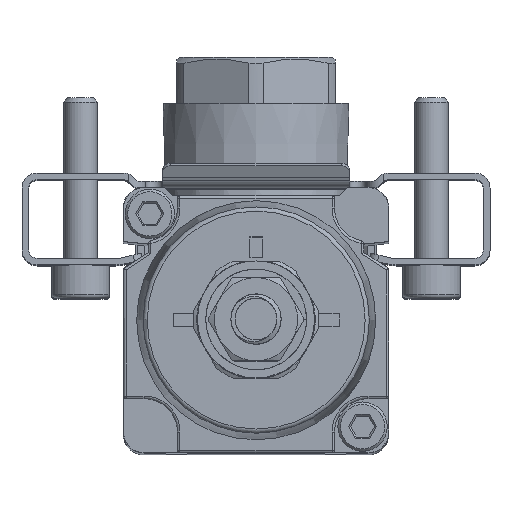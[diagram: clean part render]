
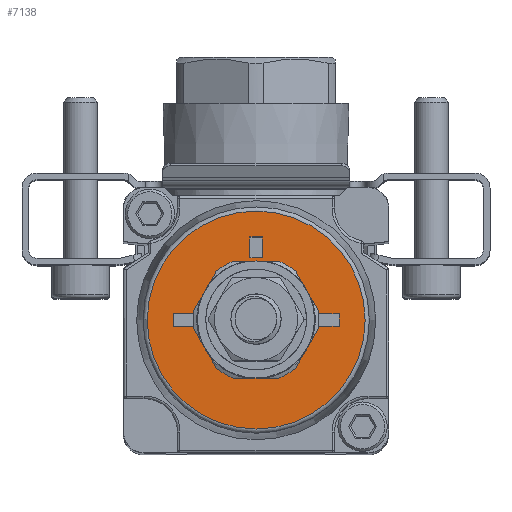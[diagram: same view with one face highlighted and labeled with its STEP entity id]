
A CAD part, top view. The second image highlights one B-rep face of the part: STEP entity #7138.
In plain terms, the highlighted planar face has unit normal (0, 0, 1).
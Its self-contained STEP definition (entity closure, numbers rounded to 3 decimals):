
#6907=CARTESIAN_POINT('',(242.574,-15.124,67.364));
#6908=VERTEX_POINT('',#6907);
#6915=CARTESIAN_POINT('',(240.078,-15.124,67.364));
#6916=VERTEX_POINT('',#6915);
#6917=CARTESIAN_POINT('',(242.574,-15.124,67.364));
#6918=DIRECTION('',(-1.,0.,0.));
#6919=VECTOR('',#6918,2.496);
#6920=LINE('',#6917,#6919);
#6921=EDGE_CURVE('',#6908,#6916,#6920,.T.);
#6939=CARTESIAN_POINT('',(240.078,-16.621,67.364));
#6940=VERTEX_POINT('',#6939);
#6941=CARTESIAN_POINT('',(240.078,-15.124,67.364));
#6942=DIRECTION('',(0.,-1.,0.));
#6943=VECTOR('',#6942,1.497);
#6944=LINE('',#6941,#6943);
#6945=EDGE_CURVE('',#6916,#6940,#6944,.T.);
#6961=CARTESIAN_POINT('',(242.574,-16.621,67.364));
#6962=VERTEX_POINT('',#6961);
#6971=CARTESIAN_POINT('',(240.078,-16.621,67.364));
#6972=DIRECTION('',(1.,0.,0.));
#6973=VECTOR('',#6972,2.496);
#6974=LINE('',#6971,#6973);
#6975=EDGE_CURVE('',#6940,#6962,#6974,.T.);
#6994=CARTESIAN_POINT('',(242.574,-16.621,67.364));
#6995=DIRECTION('',(0.,1.,0.));
#6996=VECTOR('',#6995,1.497);
#6997=LINE('',#6994,#6996);
#6998=EDGE_CURVE('',#6962,#6908,#6997,.T.);
#7018=CARTESIAN_POINT('',(250.023,-15.873,67.364));
#7019=DIRECTION('',(-1.,0.,0.));
#7020=DIRECTION('',(0.,0.,1.));
#7021=AXIS2_PLACEMENT_3D('',#7018,#7020,#7019);
#7022=PLANE('',#7021);
#7023=CARTESIAN_POINT('',(236.986,-15.873,67.364));
#7024=VERTEX_POINT('',#7023);
#7025=CARTESIAN_POINT('',(236.986,-15.798,67.364));
#7026=VERTEX_POINT('',#7025);
#7027=CARTESIAN_POINT('',(250.023,-15.873,67.364));
#7028=DIRECTION('',(-1.,0.,0.));
#7029=DIRECTION('',(0.,0.,1.));
#7030=AXIS2_PLACEMENT_3D('',#7027,#7029,#7028);
#7031=CIRCLE('',#7030,13.037);
#7032=EDGE_CURVE('',#7024,#7026,#7031,.T.);
#7033=ORIENTED_EDGE('E391',*,*,#7032,.T.);
#7034=CARTESIAN_POINT('',(250.023,-15.873,67.364));
#7035=DIRECTION('',(-1.,0.006,0.));
#7036=DIRECTION('',(0.,0.,1.));
#7037=AXIS2_PLACEMENT_3D('',#7034,#7036,#7035);
#7038=CIRCLE('',#7037,13.037);
#7039=TRIMMED_CURVE('',#7038,(PARAMETER_VALUE(0.)),(PARAMETER_VALUE(0.006)),.T.,.PARAMETER.);
#7040=EDGE_CURVE('',#7026,#7024,#7039,.T.);
#7041=ORIENTED_EDGE('E392',*,*,#7040,.T.);
#7042=EDGE_LOOP('',(#7033,#7041));
#7043=FACE_OUTER_BOUND('',#7042,.T.);
#7044=CARTESIAN_POINT('',(259.967,-15.124,67.364));
#7045=VERTEX_POINT('',#7044);
#7046=CARTESIAN_POINT('',(259.967,-16.621,67.364));
#7047=VERTEX_POINT('',#7046);
#7048=CARTESIAN_POINT('',(259.967,-15.124,67.364));
#7049=DIRECTION('',(0.,-1.,0.));
#7050=VECTOR('',#7049,1.497);
#7051=LINE('',#7048,#7050);
#7052=EDGE_CURVE('',#7045,#7047,#7051,.T.);
#7053=ORIENTED_EDGE('E393',*,*,#7052,.T.);
#7054=CARTESIAN_POINT('',(257.472,-16.621,67.364));
#7055=VERTEX_POINT('',#7054);
#7056=CARTESIAN_POINT('',(259.967,-16.621,67.364));
#7057=DIRECTION('',(-1.,0.,0.));
#7058=VECTOR('',#7057,2.496);
#7059=LINE('',#7056,#7058);
#7060=EDGE_CURVE('',#7047,#7055,#7059,.T.);
#7061=ORIENTED_EDGE('E394',*,*,#7060,.T.);
#7062=CARTESIAN_POINT('',(257.472,-15.124,67.364));
#7063=VERTEX_POINT('',#7062);
#7064=CARTESIAN_POINT('',(257.472,-16.621,67.364));
#7065=DIRECTION('',(0.,1.,0.));
#7066=VECTOR('',#7065,1.497);
#7067=LINE('',#7064,#7066);
#7068=EDGE_CURVE('',#7055,#7063,#7067,.T.);
#7069=ORIENTED_EDGE('E395',*,*,#7068,.T.);
#7070=CARTESIAN_POINT('',(257.472,-15.124,67.364));
#7071=DIRECTION('',(1.,0.,0.));
#7072=VECTOR('',#7071,2.496);
#7073=LINE('',#7070,#7072);
#7074=EDGE_CURVE('',#7063,#7045,#7073,.T.);
#7075=ORIENTED_EDGE('E396',*,*,#7074,.T.);
#7076=EDGE_LOOP('',(#7053,#7061,#7069,#7075));
#7077=FACE_BOUND('',#7076,.T.);
#7078=ORIENTED_EDGE('',*,*,#6975,.F.);
#7079=ORIENTED_EDGE('',*,*,#6945,.F.);
#7080=ORIENTED_EDGE('',*,*,#6921,.F.);
#7081=ORIENTED_EDGE('',*,*,#6998,.F.);
#7082=EDGE_LOOP('',(#7078,#7079,#7080,#7081));
#7083=FACE_BOUND('',#7082,.T.);
#7084=CARTESIAN_POINT('',(249.274,-8.424,67.364));
#7085=VERTEX_POINT('',#7084);
#7086=CARTESIAN_POINT('',(249.274,-5.928,67.364));
#7087=VERTEX_POINT('',#7086);
#7088=CARTESIAN_POINT('',(249.274,-8.424,67.364));
#7089=DIRECTION('',(0.,1.,0.));
#7090=VECTOR('',#7089,2.496);
#7091=LINE('',#7088,#7090);
#7092=EDGE_CURVE('',#7085,#7087,#7091,.T.);
#7093=ORIENTED_EDGE('E397',*,*,#7092,.T.);
#7094=CARTESIAN_POINT('',(250.771,-5.928,67.364));
#7095=VERTEX_POINT('',#7094);
#7096=CARTESIAN_POINT('',(249.274,-5.928,67.364));
#7097=DIRECTION('',(1.,0.,0.));
#7098=VECTOR('',#7097,1.497);
#7099=LINE('',#7096,#7098);
#7100=EDGE_CURVE('',#7087,#7095,#7099,.T.);
#7101=ORIENTED_EDGE('E398',*,*,#7100,.T.);
#7102=CARTESIAN_POINT('',(250.771,-8.424,67.364));
#7103=VERTEX_POINT('',#7102);
#7104=CARTESIAN_POINT('',(250.771,-5.928,67.364));
#7105=DIRECTION('',(0.,-1.,0.));
#7106=VECTOR('',#7105,2.496);
#7107=LINE('',#7104,#7106);
#7108=EDGE_CURVE('',#7095,#7103,#7107,.T.);
#7109=ORIENTED_EDGE('E399',*,*,#7108,.T.);
#7110=CARTESIAN_POINT('',(250.771,-8.424,67.364));
#7111=DIRECTION('',(-1.,0.,0.));
#7112=VECTOR('',#7111,1.497);
#7113=LINE('',#7110,#7112);
#7114=EDGE_CURVE('',#7103,#7085,#7113,.T.);
#7115=ORIENTED_EDGE('E400',*,*,#7114,.T.);
#7116=EDGE_LOOP('',(#7093,#7101,#7109,#7115));
#7117=FACE_BOUND('',#7116,.T.);
#7118=CARTESIAN_POINT('',(254.016,-15.873,67.364));
#7119=VERTEX_POINT('',#7118);
#7120=CARTESIAN_POINT('',(246.03,-15.873,67.364));
#7121=VERTEX_POINT('',#7120);
#7122=CARTESIAN_POINT('',(250.023,-15.873,67.364));
#7123=DIRECTION('',(1.,0.,0.));
#7124=DIRECTION('',(0.,0.,-1.));
#7125=AXIS2_PLACEMENT_3D('',#7122,#7124,#7123);
#7126=CIRCLE('',#7125,3.993);
#7127=EDGE_CURVE('',#7119,#7121,#7126,.T.);
#7128=ORIENTED_EDGE('E401',*,*,#7127,.T.);
#7129=CARTESIAN_POINT('',(250.023,-15.873,67.364));
#7130=DIRECTION('',(-1.,0.,0.));
#7131=DIRECTION('',(0.,0.,-1.));
#7132=AXIS2_PLACEMENT_3D('',#7129,#7131,#7130);
#7133=CIRCLE('',#7132,3.993);
#7134=EDGE_CURVE('',#7121,#7119,#7133,.T.);
#7135=ORIENTED_EDGE('E402',*,*,#7134,.T.);
#7136=EDGE_LOOP('',(#7128,#7135));
#7137=FACE_BOUND('',#7136,.T.);
#7138=ADVANCED_FACE('F146',(#7043,#7077,#7083,#7117,#7137),#7022,.T.);
